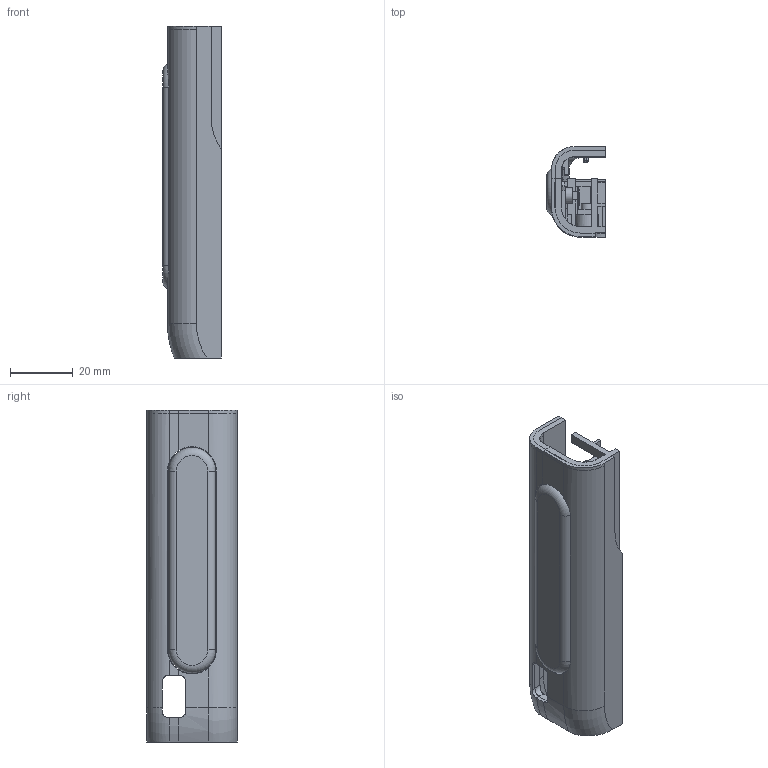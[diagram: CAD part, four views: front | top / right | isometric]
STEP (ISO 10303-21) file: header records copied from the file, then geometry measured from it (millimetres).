
FILE_DESCRIPTION(('Open CASCADE Model'),'2;1');
FILE_NAME('C01_PTT_USB - test section with cut boundaries', '2026-09-06T11:35:13',('Author'),('Open CASCADE'), 'Open CASCADE STEP processor 7.8','build123d','Unknown');
FILE_SCHEMA(('AUTOMOTIVE_DESIGN { 1 0 10303 214 1 1 1 1 }'));
Length unit declared in the file: millimetre
Products named in the file (35): C01_PTT_USB - test section with cut boundaries; front_chassis_PA12; rear_service_cover_PA12; front_grip_skin_finegrain_cream; rear_grip_skin_finegrain_cream_INSCRIBED; ptt_cap_orange_72mm; carrier_left_ptt_fr4_handwired; ptt_pad_silicone_1; SOLID; ptt_pad_silicone_2; REF_insert_ruthex_RX-M2x4_left_carrier_-36; REF_insert_ruthex_RX-M2x4_left_carrier_+40; REF_screw_SSCF-M2-6-A2_left_carrier_-36_simplified; REF_screw_SSCF-M2-6-A2_left_carrier_+40_simplified; REF_sw_B3F-3150_ptt_lower; ASSEMBLY; REF_sw_B3F-3150_ptt_upper
Assembly tree (34 placements, depth 4):
  C01_PTT_USB - test section with cut boundaries
    front_chassis_PA12
    rear_service_cover_PA12
    front_grip_skin_finegrain_cream
    rear_grip_skin_finegrain_cream_INSCRIBED
    ptt_cap_orange_72mm
    carrier_left_ptt_fr4_handwired
    ptt_pad_silicone_1
      SOLID
    ptt_pad_silicone_2
      SOLID
    REF_insert_ruthex_RX-M2x4_left_carrier_-36
      SOLID
    REF_insert_ruthex_RX-M2x4_left_carrier_+40
      SOLID
    REF_screw_SSCF-M2-6-A2_left_carrier_-36_simplified
    REF_screw_SSCF-M2-6-A2_left_carrier_+40_simplified
    REF_sw_B3F-3150_ptt_lower
      ASSEMBLY
        SOLID
        SOLID
        SOLID
        SOLID
        SOLID
        SOLID
        SOLID
    REF_sw_B3F-3150_ptt_upper
      ASSEMBLY
        SOLID
        SOLID
        SOLID
        SOLID
        SOLID
        SOLID
        SOLID
Bounding box: 18.8 x 28.8 x 106 mm (x, y, z)
Volume: 21492.7 mm3; surface area: 26964.8 mm2
Topology: 26 solids, 26 shells, 1134 faces, 3111 edges, 2060 vertices
Faces by surface type: plane 647, bspline 330, cylinder 120, torus 18, cone 12, sphere 7
Full cylindrical faces by diameter (mm): 1.623 x2, 2 x2, 2.074 x6, 2.9 x2, 3.03 x2, 3.2 x4, 3.8 x2, 5 x2, 7.2 x2
Entity records: 115412 total; most frequent: CARTESIAN_POINT 58849, DIRECTION 8122, ORIENTED_EDGE 6212, PCURVE 6212, DEFINITIONAL_REPRESENTATION 6212, LINE 5903, VECTOR 5903, EDGE_CURVE 3106
